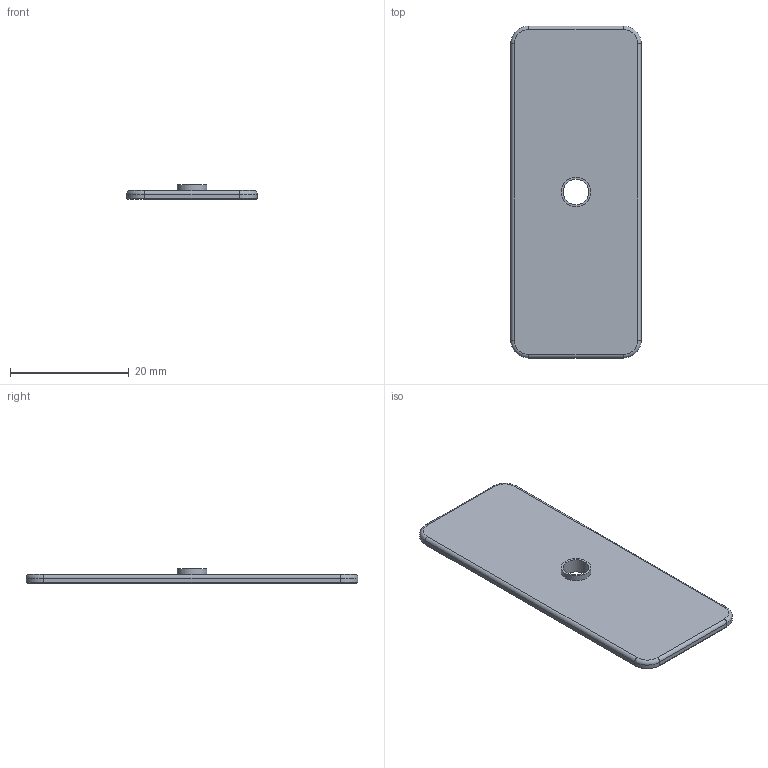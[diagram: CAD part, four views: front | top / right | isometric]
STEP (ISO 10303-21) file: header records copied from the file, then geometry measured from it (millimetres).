
FILE_DESCRIPTION(('Open CASCADE Model'),'2;1');
FILE_NAME('W-RECT-WP56','2026-10-19T21:23:53',('Author'),('Open CASCADE' ),'Open CASCADE STEP processor 8.0','build123d','Unknown');
FILE_SCHEMA(('AUTOMOTIVE_DESIGN { 1 0 10303 214 1 1 1 1 }'));
Length unit declared in the file: millimetre
Products named in the file (2): W-RECT-WP56; brass_WP56__w
Assembly tree (1 placements, depth 2):
  W-RECT-WP56
    brass_WP56__w
Bounding box: 22 x 56 x 2.49 mm (x, y, z)
Volume: 1800.1 mm3; surface area: 2648.2 mm2
Topology: 1 solids, 1 shells, 33 faces, 68 edges, 40 vertices
Faces by surface type: plane 13, cylinder 12, cone 4, torus 4
Full cylindrical faces by diameter (mm): 2 x2, 4.3 x1, 5 x1
Entity records: 1774 total; most frequent: CARTESIAN_POINT 359, DIRECTION 266, ORIENTED_EDGE 136, PCURVE 136, DEFINITIONAL_REPRESENTATION 136, LINE 124, VECTOR 124, EDGE_CURVE 68
